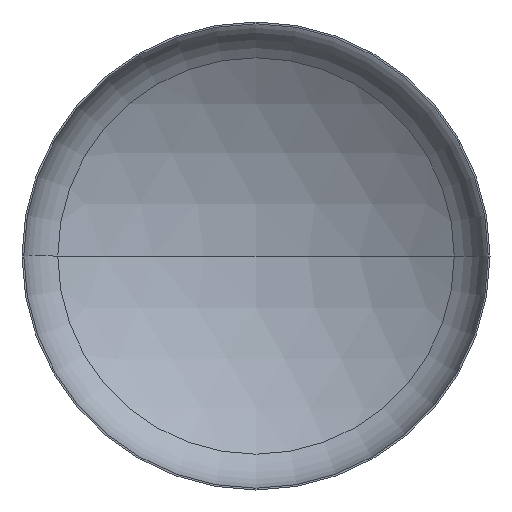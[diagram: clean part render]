
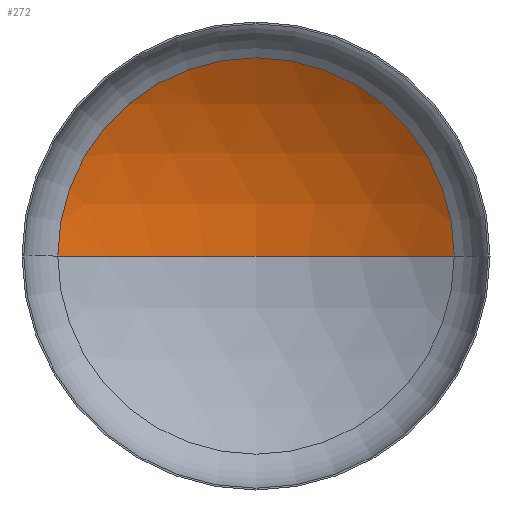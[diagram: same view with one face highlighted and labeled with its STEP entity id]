
A CAD part, front view. The second image highlights one B-rep face of the part: STEP entity #272.
In plain terms, the highlighted spherical face has radius 3600 mm.
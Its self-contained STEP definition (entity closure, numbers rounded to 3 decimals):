
#5 = DIRECTION ( 'NONE',  ( 0., -1., 0. ) ) ;
#6 = VERTEX_POINT ( 'NONE', #280 ) ;
#11 = CARTESIAN_POINT ( 'NONE',  ( 0., 644.605, 0. ) ) ;
#13 = EDGE_LOOP ( 'NONE', ( #80, #31, #21 ) ) ;
#21 = ORIENTED_EDGE ( 'NONE', *, *, #166, .T. ) ;
#22 = AXIS2_PLACEMENT_3D ( 'NONE', #329, #36, #76 ) ;
#23 = CARTESIAN_POINT ( 'NONE',  ( 0., -2409.464, 0. ) ) ;
#31 = ORIENTED_EDGE ( 'NONE', *, *, #169, .T. ) ;
#36 = DIRECTION ( 'NONE',  ( 0., 0., 1. ) ) ;
#41 = CIRCLE ( 'NONE', #106, 3600. ) ;
#44 = DIRECTION ( 'NONE',  ( -1., 0., 0. ) ) ;
#64 = AXIS2_PLACEMENT_3D ( 'NONE', #23, #176, #44 ) ;
#76 = DIRECTION ( 'NONE',  ( 1., 0., 0. ) ) ;
#80 = ORIENTED_EDGE ( 'NONE', *, *, #356, .F. ) ;
#97 = VERTEX_POINT ( 'NONE', #228 ) ;
#99 = VERTEX_POINT ( 'NONE', #233 ) ;
#106 = AXIS2_PLACEMENT_3D ( 'NONE', #262, #279, #124 ) ;
#109 = AXIS2_PLACEMENT_3D ( 'NONE', #11, #5, #209 ) ;
#124 = DIRECTION ( 'NONE',  ( -1., 0., 0. ) ) ;
#153 = SPHERICAL_SURFACE ( 'NONE', #64, 3600. ) ;
#166 = EDGE_CURVE ( 'NONE', #99, #97, #366, .T. ) ;
#169 = EDGE_CURVE ( 'NONE', #6, #99, #41, .T. ) ;
#176 = DIRECTION ( 'NONE',  ( 0., 0., -1. ) ) ;
#209 = DIRECTION ( 'NONE',  ( 1., 0., 0. ) ) ;
#228 = CARTESIAN_POINT ( 'NONE',  ( -1905.955, 644.605, 0. ) ) ;
#233 = CARTESIAN_POINT ( 'NONE',  ( 1905.955, 644.605, 0. ) ) ;
#262 = CARTESIAN_POINT ( 'NONE',  ( 0., -2409.464, 0. ) ) ;
#272 = ADVANCED_FACE ( 'NONE', ( #281 ), #153, .F. ) ;
#279 = DIRECTION ( 'NONE',  ( 0., 0., -1. ) ) ;
#280 = CARTESIAN_POINT ( 'NONE',  ( 0., 1190.536, 0. ) ) ;
#281 = FACE_OUTER_BOUND ( 'NONE', #13, .T. ) ;
#329 = CARTESIAN_POINT ( 'NONE',  ( 0., -2409.464, 0. ) ) ;
#356 = EDGE_CURVE ( 'NONE', #6, #97, #397, .T. ) ;
#366 = CIRCLE ( 'NONE', #109, 1905.955 ) ;
#397 = CIRCLE ( 'NONE', #22, 3600. ) ;
